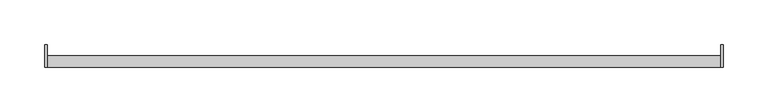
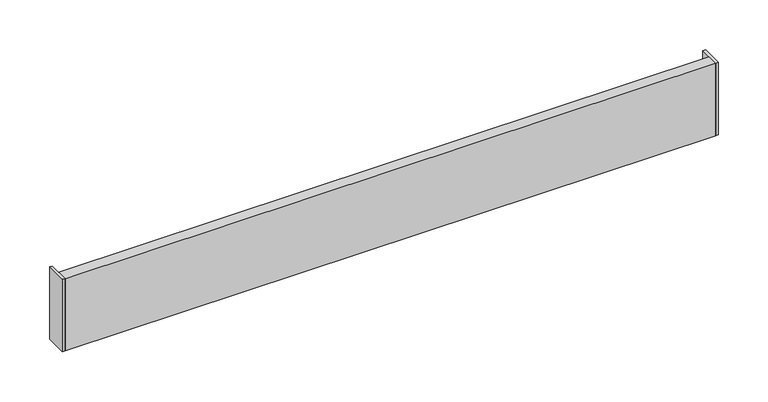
"""IFC4 building model written with IfcOpenShell, lengths in millimetres: furniture geometry."""

from ifc_helpers import new_model, si_unit, frame, origin, place, context, project, spatial, polyline, outline, extrude, source, transform, mapped, element, save


def furniture_f03510d4(model_context):
    return source(origin(), model_context, "Body", "SweptSolid", [
        extrude(outline(polyline([(-377.825, 12.6999996), (-377.825, -12.7000004), (-381.0, -12.7000004), (-381.0, 12.6999996), (-377.825, 12.6999996)])), frame((0.0, 0.0, 1023.51332), z_axis=(0.0, 0.0, 1.0), x_axis=(1.0, 0.0, 0.0)), (0.0, 0.0, 1.0), 88.9),
        extrude(outline(polyline([(381.0, 12.6999996), (381.0, -12.7000004), (377.825, -12.7000004), (377.825, 12.6999996), (381.0, 12.6999996)])), frame((0.0, 0.0, 1023.51332), z_axis=(0.0, 0.0, 1.0), x_axis=(1.0, 0.0, 0.0)), (0.0, 0.0, 1.0), 88.9),
        extrude(outline(polyline([(377.825, 0.0), (377.825, -12.7000004), (-377.825, -12.7000004), (-377.825, 0.0), (377.825, 0.0)])), frame((0.0, 0.0, 1023.51332), z_axis=(0.0, 0.0, 1.0), x_axis=(1.0, 0.0, 0.0)), (0.0, 0.0, 1.0), 88.9),
        extrude(outline(polyline([(-12.7000004, 1099.7133166), (-12.7000004, 1112.41332), (0.0, 1112.41332), (0.0, 1023.51332), (-12.7000004, 1023.51332), (-12.7000004, 1048.9133166), (-3.1750002, 1048.9133166), (-3.1750002, 1061.6133166), (-12.7000004, 1061.6133166), (-12.7000004, 1087.0133166), (-3.1750002, 1087.0133166), (-3.1750002, 1099.7133166), (-12.7000004, 1099.7133166)])), frame((-377.825, 0.0, 0.0), z_axis=(1.0, 0.0, 0.0), x_axis=(0.0, 1.0, 0.0)), (0.0, 0.0, 1.0), 755.65),
        extrude(outline(polyline([(-12.7000004, 1112.41332), (0.0, 1112.41332), (0.0, 1099.7133166), (12.6999996, 1099.7133166), (12.6999996, 1036.213317), (0.0, 1036.213317), (0.0, 1023.51332), (-12.7000004, 1023.51332), (-12.7000004, 1112.41332)])), frame((-381.0, 0.0, 0.0), z_axis=(1.0, 0.0, 0.0), x_axis=(0.0, 1.0, 0.0)), (0.0, 0.0, 1.0), 3.175),
        extrude(outline(polyline([(-12.7000004, 1112.41332), (0.0, 1112.41332), (0.0, 1099.7133166), (12.6999996, 1099.7133166), (12.6999996, 1036.213317), (0.0, 1036.213317), (0.0, 1023.51332), (-12.7000004, 1023.51332), (-12.7000004, 1112.41332)])), frame((377.825, 0.0, 0.0), z_axis=(1.0, 0.0, 0.0), x_axis=(0.0, 1.0, 0.0)), (0.0, 0.0, 1.0), 3.175),
    ])


if __name__ == "__main__":
    model = new_model("IFC4")
    model_context = context("Model", 3, world=origin())
    ifc_project = project(units=[si_unit("LENGTHUNIT", "METRE", prefix="MILLI")], contexts=[model_context])
    site = spatial("IfcSite", under=ifc_project)
    building = spatial("IfcBuilding", under=site)
    placement = place(None, origin())
    furniture_shape = furniture_f03510d4(model_context)
    element("IfcFurniture", 1, ObjectType="HermanMiller_ActionOffice_A3610_ToolBar : 4\"H x 30\"W", at=placement, inside=building, context=model_context, shape_type="MappedRepresentation", body=[
        mapped(furniture_shape, transform((0.0, 0.0, 0.0), x_axis=(1.0, 0.0, 0.0), y_axis=(0.0, 1.0, 0.0), z_axis=(0.0, 0.0, 1.0))),
    ])
    save(model, "model.ifc")
